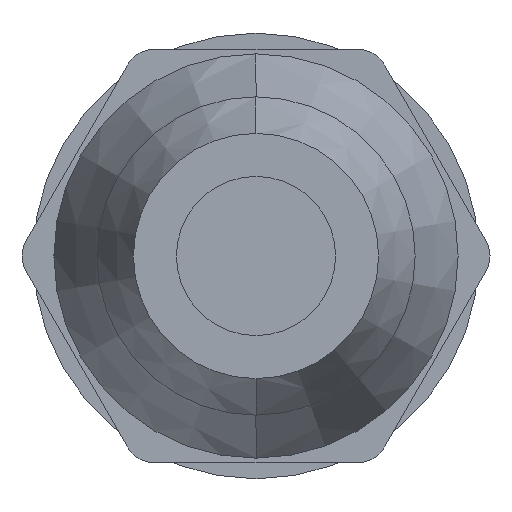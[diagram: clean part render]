
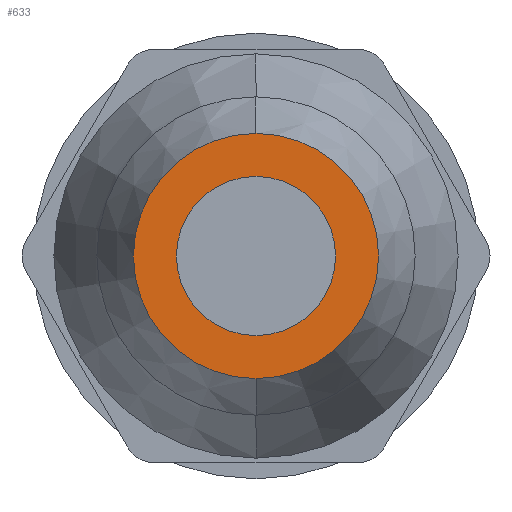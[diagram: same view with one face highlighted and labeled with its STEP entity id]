
A CAD part, front view. The second image highlights one B-rep face of the part: STEP entity #633.
In plain terms, the highlighted planar face has unit normal (0, -1, 0).
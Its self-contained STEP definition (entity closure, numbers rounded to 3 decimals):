
#13 = AXIS2_PLACEMENT_3D ( 'NONE', #612, #280, #1137 ) ;
#20 = VERTEX_POINT ( 'NONE', #346 ) ;
#61 = ORIENTED_EDGE ( 'NONE', *, *, #1283, .F. ) ;
#95 = ORIENTED_EDGE ( 'NONE', *, *, #671, .F. ) ;
#101 = CARTESIAN_POINT ( 'NONE',  ( 0., 0., 0. ) ) ;
#118 = DIRECTION ( 'NONE',  ( 0., -1., 0. ) ) ;
#130 = CARTESIAN_POINT ( 'NONE',  ( 0., 0., -2.5 ) ) ;
#190 = DIRECTION ( 'NONE',  ( 0., 0., 1. ) ) ;
#217 = AXIS2_PLACEMENT_3D ( 'NONE', #516, #408, #190 ) ;
#280 = DIRECTION ( 'NONE',  ( 0., 1., 0. ) ) ;
#288 = PLANE ( 'NONE',  #13 ) ;
#319 = CIRCLE ( 'NONE', #983, 3.85 ) ;
#337 = AXIS2_PLACEMENT_3D ( 'NONE', #101, #437, #540 ) ;
#346 = CARTESIAN_POINT ( 'NONE',  ( 0., 0., 3.85 ) ) ;
#388 = EDGE_CURVE ( 'NONE', #681, #20, #757, .T. ) ;
#390 = DIRECTION ( 'NONE',  ( 0., -1., 0. ) ) ;
#408 = DIRECTION ( 'NONE',  ( 0., -1., 0. ) ) ;
#436 = EDGE_CURVE ( 'NONE', #20, #681, #319, .T. ) ;
#437 = DIRECTION ( 'NONE',  ( 0., -1., 0. ) ) ;
#499 = VERTEX_POINT ( 'NONE', #130 ) ;
#516 = CARTESIAN_POINT ( 'NONE',  ( 0., 0., 0. ) ) ;
#540 = DIRECTION ( 'NONE',  ( 0., 0., -1. ) ) ;
#551 = DIRECTION ( 'NONE',  ( 0., 0., -1. ) ) ;
#586 = CARTESIAN_POINT ( 'NONE',  ( 0., 0., 2.5 ) ) ;
#591 = EDGE_LOOP ( 'NONE', ( #61, #95 ) ) ;
#612 = CARTESIAN_POINT ( 'NONE',  ( 0., 0., 0. ) ) ;
#633 = ADVANCED_FACE ( 'NONE', ( #838, #1262 ), #288, .F. ) ;
#671 = EDGE_CURVE ( 'NONE', #499, #1144, #820, .T. ) ;
#681 = VERTEX_POINT ( 'NONE', #935 ) ;
#699 = AXIS2_PLACEMENT_3D ( 'NONE', #1345, #390, #805 ) ;
#757 = CIRCLE ( 'NONE', #337, 3.85 ) ;
#805 = DIRECTION ( 'NONE',  ( 0., 0., 1. ) ) ;
#820 = CIRCLE ( 'NONE', #217, 2.5 ) ;
#838 = FACE_OUTER_BOUND ( 'NONE', #1340, .T. ) ;
#935 = CARTESIAN_POINT ( 'NONE',  ( 0., 0., -3.85 ) ) ;
#983 = AXIS2_PLACEMENT_3D ( 'NONE', #1080, #118, #551 ) ;
#1014 = CIRCLE ( 'NONE', #699, 2.5 ) ;
#1080 = CARTESIAN_POINT ( 'NONE',  ( 0., 0., 0. ) ) ;
#1137 = DIRECTION ( 'NONE',  ( 0., 0., 1. ) ) ;
#1144 = VERTEX_POINT ( 'NONE', #586 ) ;
#1262 = FACE_BOUND ( 'NONE', #591, .T. ) ;
#1283 = EDGE_CURVE ( 'NONE', #1144, #499, #1014, .T. ) ;
#1301 = ORIENTED_EDGE ( 'NONE', *, *, #436, .T. ) ;
#1340 = EDGE_LOOP ( 'NONE', ( #1301, #1348 ) ) ;
#1345 = CARTESIAN_POINT ( 'NONE',  ( 0., 0., 0. ) ) ;
#1348 = ORIENTED_EDGE ( 'NONE', *, *, #388, .T. ) ;
